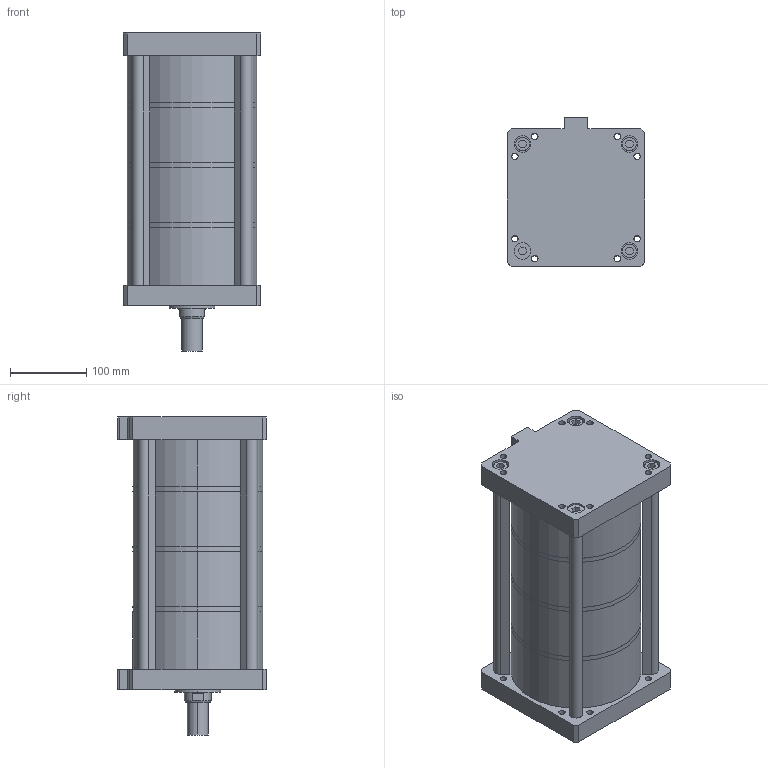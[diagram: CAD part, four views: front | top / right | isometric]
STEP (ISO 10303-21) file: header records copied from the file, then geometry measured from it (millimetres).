
FILE_DESCRIPTION (( 'STEP AP203' ), '1' );
FILE_NAME ('MHK-160-50-E-4.STEP', '2016-03-30T09:35:05', ( 'WIN' ), ( '' ), 'SwSTEP 2.0', 'SolidWorks 2014', '' );
FILE_SCHEMA (( 'CONFIG_CONTROL_DESIGN' ));
Length unit declared in the file: millimetre
Products named in the file (1): MHK-160-50-E-4
Bounding box: 180 x 195 x 416.5 mm (x, y, z)
Volume: 3185774.5 mm3; surface area: 808024.5 mm2
Topology: 3 solids, 4 shells, 338 faces, 824 edges, 526 vertices
Faces by surface type: plane 196, cylinder 132, cone 10
Entity records: 10091 total; most frequent: DIRECTION 1842, CARTESIAN_POINT 1697, ORIENTED_EDGE 1640, EDGE_CURVE 820, AXIS2_PLACEMENT_3D 687, VERTEX_POINT 526, LINE 468, VECTOR 468
